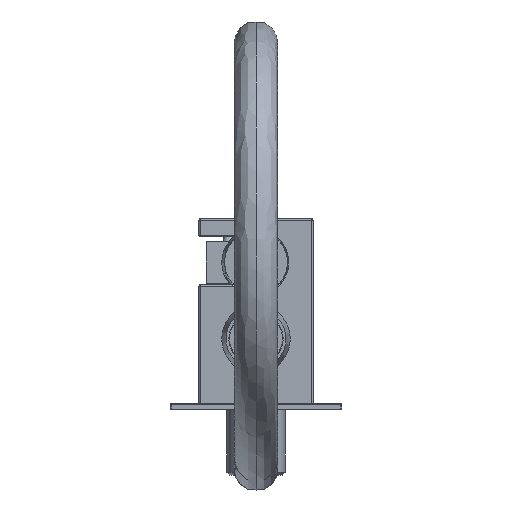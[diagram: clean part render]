
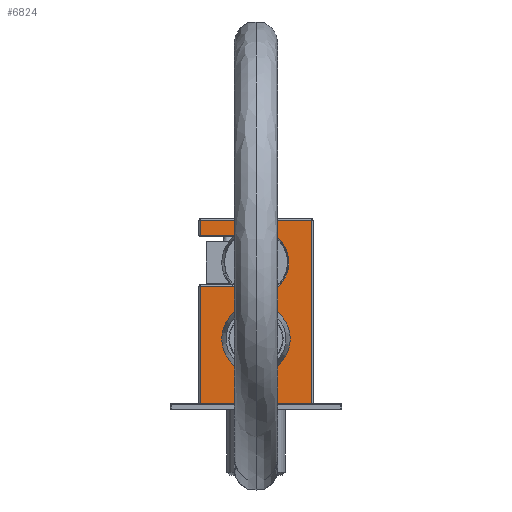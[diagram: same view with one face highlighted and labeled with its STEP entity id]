
A CAD part, top view. The second image highlights one B-rep face of the part: STEP entity #6824.
In plain terms, the highlighted planar face has unit normal (0, 0, 1).
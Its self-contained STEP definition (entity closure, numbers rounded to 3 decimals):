
#1028=DIRECTION('',(1.,0.,0.));
#1029=VECTOR('',#1028,12.817);
#1030=CARTESIAN_POINT('',(-19.5,59.,7.5));
#1031=LINE('',#1030,#1029);
#1032=DIRECTION('',(0.,-1.,0.));
#1033=VECTOR('',#1032,5.3);
#1034=CARTESIAN_POINT('',(-19.5,64.3,7.5));
#1035=LINE('',#1034,#1033);
#1036=DIRECTION('',(-1.,0.,0.));
#1037=VECTOR('',#1036,39.);
#1038=CARTESIAN_POINT('',(19.5,64.3,7.5));
#1039=LINE('',#1038,#1037);
#1040=DIRECTION('',(0.,1.,0.));
#1041=VECTOR('',#1040,64.3);
#1042=CARTESIAN_POINT('',(19.5,0.,7.5));
#1043=LINE('',#1042,#1041);
#1044=DIRECTION('',(1.,0.,0.));
#1045=VECTOR('',#1044,39.);
#1046=CARTESIAN_POINT('',(-19.5,0.,7.5));
#1047=LINE('',#1046,#1045);
#1048=DIRECTION('',(0.,-1.,0.));
#1049=VECTOR('',#1048,41.2);
#1050=CARTESIAN_POINT('',(-19.5,41.2,7.5));
#1051=LINE('',#1050,#1049);
#1052=DIRECTION('',(-1.,0.,0.));
#1053=VECTOR('',#1052,11.301);
#1054=CARTESIAN_POINT('',(-8.199,41.2,7.5));
#1055=LINE('',#1054,#1053);
#1056=CARTESIAN_POINT('',(-7.857,41.065,7.5));
#1057=CARTESIAN_POINT('',(-7.888,41.094,7.5));
#1058=CARTESIAN_POINT('',(-7.955,41.143,7.5));
#1059=CARTESIAN_POINT('',(-8.074,41.19,7.5));
#1060=CARTESIAN_POINT('',(-8.156,41.2,7.5));
#1061=CARTESIAN_POINT('',(-8.199,41.2,7.5));
#1063=CARTESIAN_POINT('',(0.,49.5,7.5));
#1064=DIRECTION('',(0.,0.,-1.));
#1065=DIRECTION('',(-0.555,0.832,0.));
#1066=AXIS2_PLACEMENT_3D('',#1063,#1064,#1065);
#1068=CARTESIAN_POINT('',(-6.683,59.,7.5));
#1069=CARTESIAN_POINT('',(-6.65,59.,7.5));
#1070=CARTESIAN_POINT('',(-6.585,59.006,7.5));
#1071=CARTESIAN_POINT('',(-6.489,59.035,7.5));
#1072=CARTESIAN_POINT('',(-6.431,59.066,7.5));
#1073=CARTESIAN_POINT('',(-6.403,59.085,7.5));
#1075=CARTESIAN_POINT('',(0.,22.7,7.5));
#1076=DIRECTION('',(0.,0.,1.));
#1077=DIRECTION('',(0.,-1.,0.));
#1078=AXIS2_PLACEMENT_3D('',#1075,#1076,#1077);
#1080=CARTESIAN_POINT('',(0.,22.7,7.5));
#1081=DIRECTION('',(0.,0.,1.));
#1082=DIRECTION('',(0.,1.,0.));
#1083=AXIS2_PLACEMENT_3D('',#1080,#1081,#1082);
#4604=CARTESIAN_POINT('',(19.5,64.3,7.5));
#4605=CARTESIAN_POINT('',(-19.5,64.3,7.5));
#4606=VERTEX_POINT('',#4604);
#4607=VERTEX_POINT('',#4605);
#4612=CARTESIAN_POINT('',(19.5,0.,7.5));
#4613=VERTEX_POINT('',#4612);
#4620=CARTESIAN_POINT('',(-19.5,0.,7.5));
#4621=VERTEX_POINT('',#4620);
#4689=CARTESIAN_POINT('',(-19.5,59.,7.5));
#4690=VERTEX_POINT('',#4689);
#4691=CARTESIAN_POINT('',(-6.683,59.,7.5));
#4692=VERTEX_POINT('',#4691);
#4693=VERTEX_POINT('',#1073);
#4694=CARTESIAN_POINT('',(-7.857,41.065,7.5));
#4695=VERTEX_POINT('',#4694);
#4696=VERTEX_POINT('',#1061);
#4697=CARTESIAN_POINT('',(-19.5,41.2,7.5));
#4698=VERTEX_POINT('',#4697);
#4721=CARTESIAN_POINT('',(0.,10.7,7.5));
#4722=CARTESIAN_POINT('',(0.,34.7,7.5));
#4723=VERTEX_POINT('',#4721);
#4724=VERTEX_POINT('',#4722);
#6797=CARTESIAN_POINT('',(-20.,0.,7.5));
#6798=DIRECTION('',(0.,0.,1.));
#6799=DIRECTION('',(1.,0.,0.));
#6800=AXIS2_PLACEMENT_3D('',#6797,#6798,#6799);
#6801=PLANE('',#6800);
#6802=ORIENTED_EDGE('',*,*,#6595,.F.);
#6803=ORIENTED_EDGE('',*,*,#6624,.F.);
#6805=ORIENTED_EDGE('',*,*,#6804,.F.);
#6807=ORIENTED_EDGE('',*,*,#6806,.F.);
#6809=ORIENTED_EDGE('',*,*,#6808,.F.);
#6811=ORIENTED_EDGE('',*,*,#6810,.F.);
#6812=ORIENTED_EDGE('',*,*,#6788,.F.);
#6813=ORIENTED_EDGE('',*,*,#6513,.F.);
#6814=ORIENTED_EDGE('',*,*,#6530,.F.);
#6815=ORIENTED_EDGE('',*,*,#6580,.F.);
#6816=EDGE_LOOP('',(#6802,#6803,#6805,#6807,#6809,#6811,#6812,#6813,#6814,
#6815));
#6817=FACE_OUTER_BOUND('',#6816,.F.);
#6819=ORIENTED_EDGE('',*,*,#6818,.T.);
#6821=ORIENTED_EDGE('',*,*,#6820,.T.);
#6822=EDGE_LOOP('',(#6819,#6821));
#6823=FACE_BOUND('',#6822,.F.);
#6824=ADVANCED_FACE('',(#6817,#6823),#6801,.T.);
#1062=B_SPLINE_CURVE_WITH_KNOTS('',3,(#1056,#1057,#1058,#1059,#1060,#1061),
.UNSPECIFIED.,.F.,.F.,(4,1,1,4),(0.,0.333,0.667,1.),
.UNSPECIFIED.);
#1067=CIRCLE('',#1066,11.527);
#1074=B_SPLINE_CURVE_WITH_KNOTS('',3,(#1068,#1069,#1070,#1071,#1072,#1073),
.UNSPECIFIED.,.F.,.F.,(4,1,1,4),(0.,0.333,0.667,1.),
.UNSPECIFIED.);
#1079=CIRCLE('',#1078,12.);
#1084=CIRCLE('',#1083,12.);
#6513=EDGE_CURVE('',#4695,#4696,#1062,.T.);
#6530=EDGE_CURVE('',#4693,#4695,#1067,.T.);
#6580=EDGE_CURVE('',#4692,#4693,#1074,.T.);
#6595=EDGE_CURVE('',#4690,#4692,#1031,.T.);
#6624=EDGE_CURVE('',#4607,#4690,#1035,.T.);
#6788=EDGE_CURVE('',#4696,#4698,#1055,.T.);
#6804=EDGE_CURVE('',#4606,#4607,#1039,.T.);
#6806=EDGE_CURVE('',#4613,#4606,#1043,.T.);
#6808=EDGE_CURVE('',#4621,#4613,#1047,.T.);
#6810=EDGE_CURVE('',#4698,#4621,#1051,.T.);
#6818=EDGE_CURVE('',#4723,#4724,#1079,.T.);
#6820=EDGE_CURVE('',#4724,#4723,#1084,.T.);
